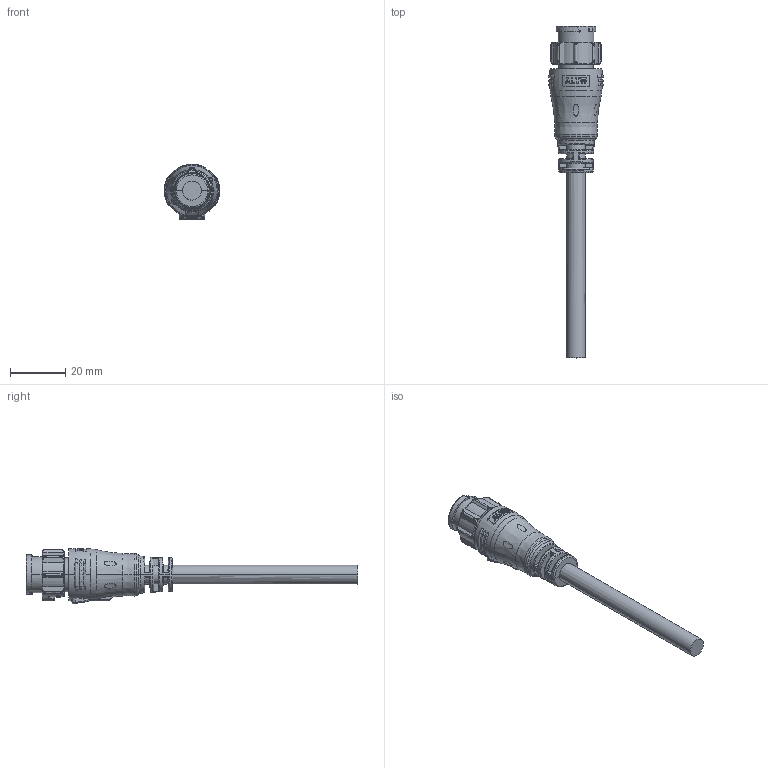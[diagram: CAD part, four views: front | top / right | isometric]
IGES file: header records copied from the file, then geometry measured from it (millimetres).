
Start section:  PTC IGES file: bd-06ammm-ql8dxx_sw0001.igs
Global section: file name: bd-06ammm-ql8dxx_sw0001.igs; native system: Creo Parametric by Parametric Technology Corporation; preprocessor: 2013050; author: KS5230; organization: Unknown; date: 20160903.182313; units: millimetre
Bounding box: 20.09 x 120 x 20.07 mm (x, y, z)
Volume: 11369.9 mm3; surface area: 5707.9 mm2
Topology: 1 solids, 1 shells, 741 faces, 2025 edges, 1309 vertices
Faces by surface type: bspline 361, revolution 306, extrusion 74
